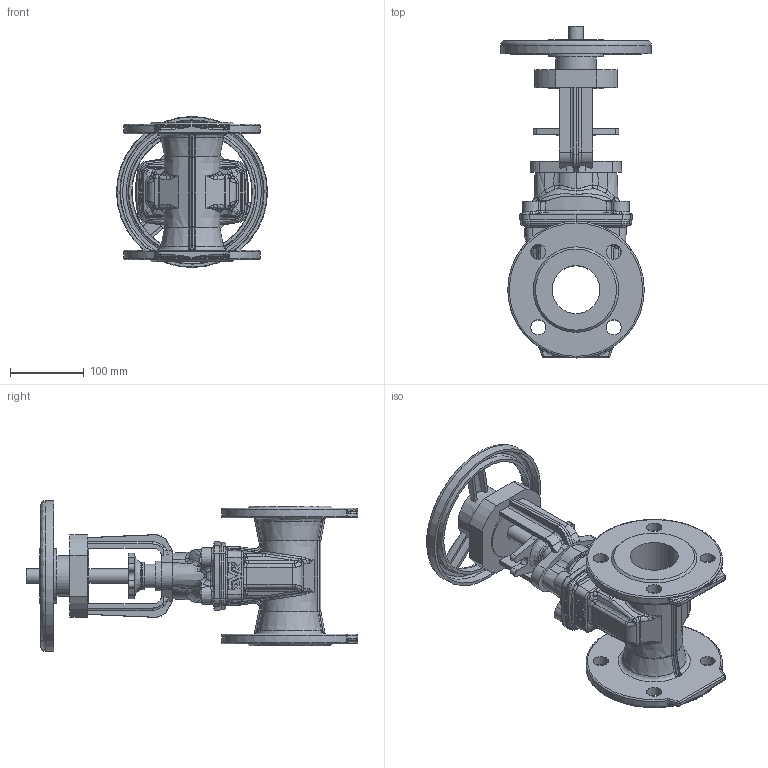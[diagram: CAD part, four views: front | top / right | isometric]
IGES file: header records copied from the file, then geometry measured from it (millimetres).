
Start section: SolidWorks IGES file using analytic representation for surfaces
Global section: file name: \\avksan2\techshare\PBM outline export from Enovia\O_21_34_DN065_41XXXXX close_AA0.igs; native system: SolidWorks 2012; preprocessor: SolidWorks 2012; author: pbm; date: 200212.095836; units: millimetre
Bounding box: 204.98 x 450.4 x 204.98 mm (x, y, z)
Surface area: 409773.2 mm2 (no closed solid volume)
Topology: 0 solids, 0 shells, 872 faces, 4420 edges, 4336 vertices
Faces by surface type: bspline 501, revolution 371
